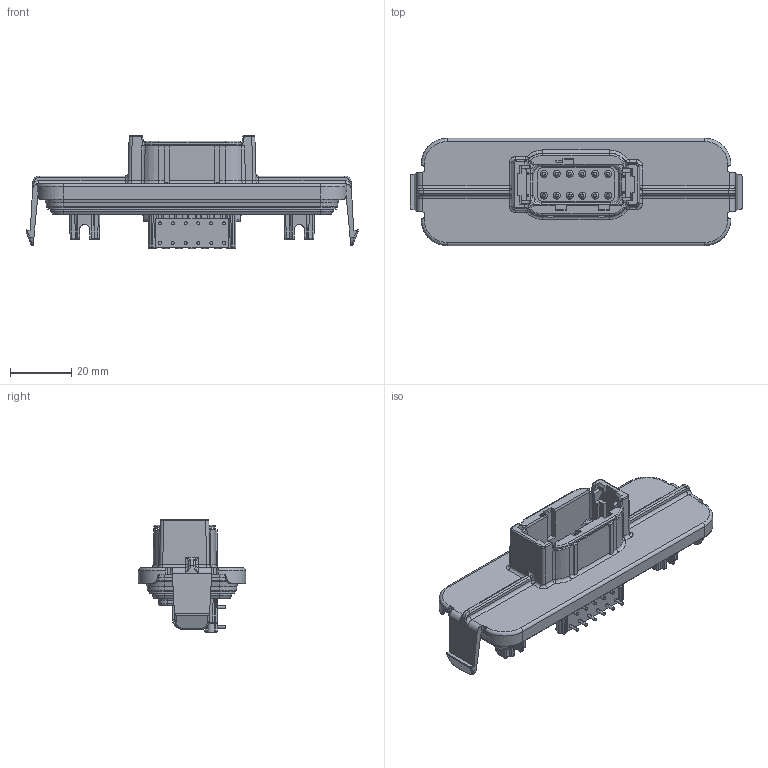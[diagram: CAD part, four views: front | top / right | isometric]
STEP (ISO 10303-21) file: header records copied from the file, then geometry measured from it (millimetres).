
FILE_DESCRIPTION((''),'2;1');
FILE_NAME('C-DTM13-12PB-R008','2013-05-10T',('workeradm'),('Tyco Electronics Ltd.'),'PRO/ENGINEER BY PARAMETRIC TECHNOLOGY CORPORATION, 2011490','PRO/ENGINEER BY PARAMETRIC TECHNOLOGY CORPORATION, 2011490','');
FILE_SCHEMA(('AUTOMOTIVE_DESIGN { 1 0 10303 214 1 1 1 1 }'));
Length unit declared in the file: millimetre
Products named in the file (1): C-DTM13-12PB-R008
Bounding box: 108.3 x 35 x 36.91 mm (x, y, z)
Volume: 35051.8 mm3; surface area: 21015.1 mm2
Topology: 1 solids, 1 shells, 1140 faces, 2870 edges, 1751 vertices
Faces by surface type: cylinder 439, plane 424, torus 106, bspline 96, cone 57, sphere 18
Entity records: 46760 total; most frequent: CARTESIAN_POINT 10705, ORIENTED_EDGE 5740, DIRECTION 5617, PRESENTATION_STYLE_ASSIGNMENT 2871, STYLED_ITEM 2871, CURVE_STYLE 2870, EDGE_CURVE 2870, AXIS2_PLACEMENT_3D 2015
